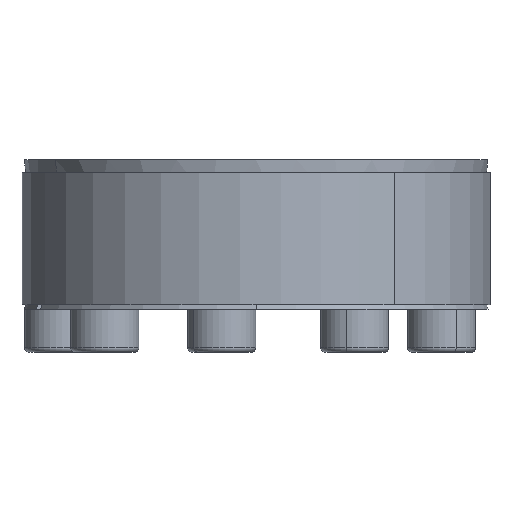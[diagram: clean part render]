
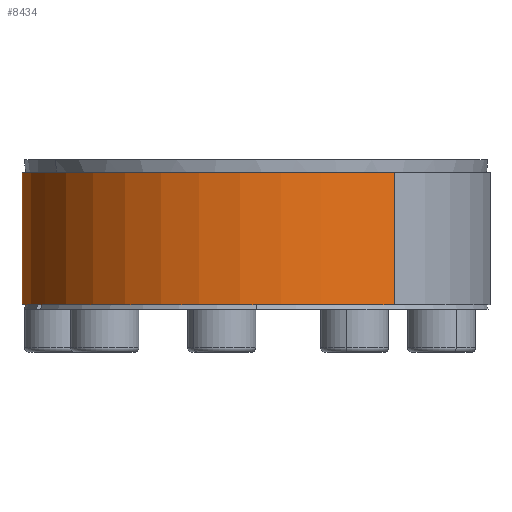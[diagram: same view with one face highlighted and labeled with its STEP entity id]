
A CAD part, left-side view. The second image highlights one B-rep face of the part: STEP entity #8434.
In plain terms, the highlighted cylindrical face has radius 54.98 mm (diameter 109.96 mm), a partial arc.
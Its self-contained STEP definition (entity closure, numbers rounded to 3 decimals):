
#711 = CIRCLE ( 'NONE', #11458, 54.98 ) ;
#909 = EDGE_CURVE ( 'NONE', #4973, #1147, #711, .T. ) ;
#1109 = ORIENTED_EDGE ( 'NONE', *, *, #909, .T. ) ;
#1147 = VERTEX_POINT ( 'NONE', #10189 ) ;
#1979 = CARTESIAN_POINT ( 'NONE',  ( 0., 0., 32.054 ) ) ;
#2212 = CARTESIAN_POINT ( 'NONE',  ( 44.48, 32.316, 32.054 ) ) ;
#2281 = CARTESIAN_POINT ( 'NONE',  ( 0., 0., 1.054 ) ) ;
#2666 = EDGE_CURVE ( 'NONE', #6623, #13464, #7221, .T. ) ;
#2837 = EDGE_CURVE ( 'NONE', #6623, #4973, #11409, .T. ) ;
#2942 = AXIS2_PLACEMENT_3D ( 'NONE', #1979, #9501, #3039 ) ;
#3039 = DIRECTION ( 'NONE',  ( -0.809, -0.588, 0. ) ) ;
#3350 = DIRECTION ( 'NONE',  ( -0.809, -0.588, 0. ) ) ;
#4535 = CARTESIAN_POINT ( 'NONE',  ( 0., 0., 32.054 ) ) ;
#4938 = CYLINDRICAL_SURFACE ( 'NONE', #11939, 54.98 ) ;
#4973 = VERTEX_POINT ( 'NONE', #12919 ) ;
#5925 = EDGE_LOOP ( 'NONE', ( #9443, #9378, #6796, #1109 ) ) ;
#6623 = VERTEX_POINT ( 'NONE', #12298 ) ;
#6717 = DIRECTION ( 'NONE',  ( 0., 0., -1. ) ) ;
#6796 = ORIENTED_EDGE ( 'NONE', *, *, #2837, .T. ) ;
#6869 = DIRECTION ( 'NONE',  ( 0., 0., -1. ) ) ;
#7221 = CIRCLE ( 'NONE', #2942, 54.98 ) ;
#7817 = LINE ( 'NONE', #13302, #13481 ) ;
#7876 = EDGE_CURVE ( 'NONE', #13464, #1147, #7817, .T. ) ;
#8434 = ADVANCED_FACE ( 'NONE', ( #8821 ), #4938, .T. ) ;
#8780 = CARTESIAN_POINT ( 'NONE',  ( -44.48, -32.316, 32.054 ) ) ;
#8821 = FACE_OUTER_BOUND ( 'NONE', #5925, .T. ) ;
#9378 = ORIENTED_EDGE ( 'NONE', *, *, #2666, .F. ) ;
#9443 = ORIENTED_EDGE ( 'NONE', *, *, #7876, .F. ) ;
#9501 = DIRECTION ( 'NONE',  ( 0., 0., 1. ) ) ;
#9808 = DIRECTION ( 'NONE',  ( 0., 0., 1. ) ) ;
#10189 = CARTESIAN_POINT ( 'NONE',  ( -44.48, -32.316, 1.054 ) ) ;
#10843 = DIRECTION ( 'NONE',  ( 0., 0., -1. ) ) ;
#11073 = VECTOR ( 'NONE', #10843, 1000. ) ;
#11409 = LINE ( 'NONE', #2212, #11073 ) ;
#11458 = AXIS2_PLACEMENT_3D ( 'NONE', #2281, #9808, #3350 ) ;
#11939 = AXIS2_PLACEMENT_3D ( 'NONE', #4535, #6717, #12089 ) ;
#12089 = DIRECTION ( 'NONE',  ( 0.809, 0.588, 0. ) ) ;
#12298 = CARTESIAN_POINT ( 'NONE',  ( 44.48, 32.316, 32.054 ) ) ;
#12919 = CARTESIAN_POINT ( 'NONE',  ( 44.48, 32.316, 1.054 ) ) ;
#13302 = CARTESIAN_POINT ( 'NONE',  ( -44.48, -32.316, 32.054 ) ) ;
#13464 = VERTEX_POINT ( 'NONE', #8780 ) ;
#13481 = VECTOR ( 'NONE', #6869, 1000. ) ;
